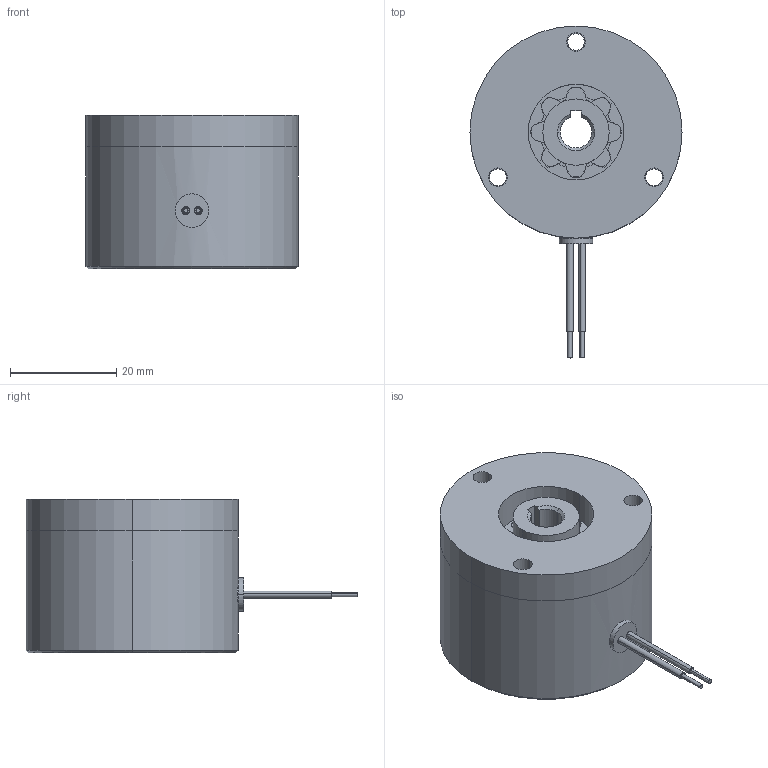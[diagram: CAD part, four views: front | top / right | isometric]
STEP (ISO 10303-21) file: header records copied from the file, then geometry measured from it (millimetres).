
FILE_DESCRIPTION (( 'STEP AP214' ), '1' );
FILE_NAME ('dr_bk_0B08_f.STEP', '2021-11-08T13:45:45', ( '' ), ( '' ), 'SwSTEP 2.0', 'SolidWorks 2019', '' );
FILE_SCHEMA (( 'AUTOMOTIVE_DESIGN' ));
Length unit declared in the file: millimetre
Products named in the file (7): 10068557_000; 10068553_000; 10068555_000; 10068558_000; 10068556_000; dr_bk_0B08_f; 10068554_000_Einbaul„nge 8,5 mm
Assembly tree (6 placements, depth 2):
  dr_bk_0B08_f
    10068553_000
    10068554_000_Einbaul„nge 8,5 mm
    10068556_000
    10068555_000
    10068557_000
    10068558_000
Bounding box: 40 x 62.56 x 29 mm (x, y, z)
Volume: 30704.2 mm3; surface area: 16279.5 mm2
Topology: 9 solids, 9 shells, 191 faces, 487 edges, 322 vertices
Faces by surface type: cylinder 138, plane 39, cone 8, bspline 6
Entity records: 7880 total; most frequent: CARTESIAN_POINT 2484, DIRECTION 1149, ORIENTED_EDGE 974, EDGE_CURVE 487, AXIS2_PLACEMENT_3D 485, VERTEX_POINT 322, CIRCLE 291, EDGE_LOOP 225
